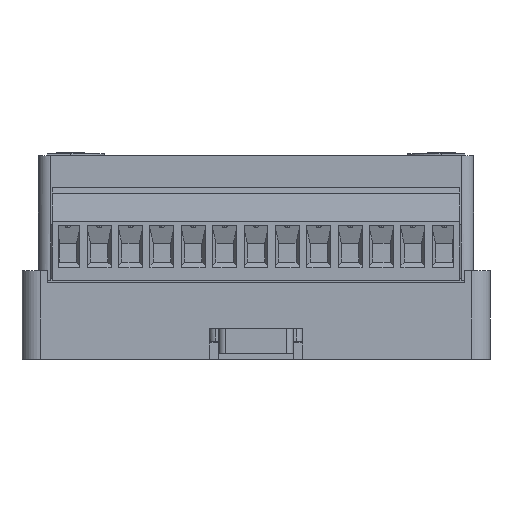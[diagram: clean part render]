
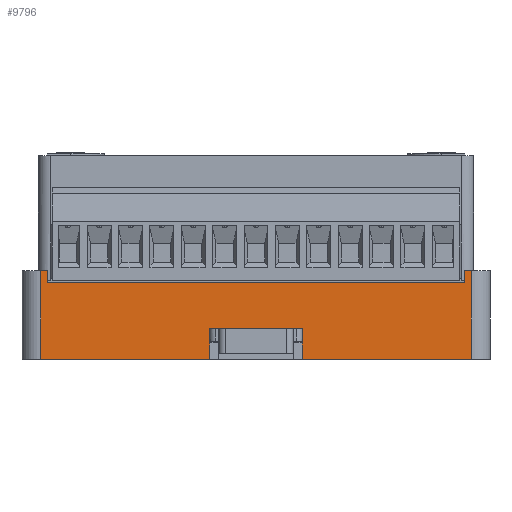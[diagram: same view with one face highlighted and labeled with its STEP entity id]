
A CAD part, front view. The second image highlights one B-rep face of the part: STEP entity #9796.
In plain terms, the highlighted planar face has unit normal (0, -1, 0).
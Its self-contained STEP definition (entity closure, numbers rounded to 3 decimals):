
#9796=ADVANCED_FACE('',(#46268),#46270,.F.);
#46268=FACE_BOUND('',#46269,.T.);
#46269=EDGE_LOOP('',(#74812,#74813,#74814,#74815,#74816,#74817,#74818,#74819,#74820,
#74821,#74822,#74823,#74824,#74825,#74826,#74827));
#46270=PLANE('',#46271);
#46271=AXIS2_PLACEMENT_3D('',#46272,#46273,#46274);
#46272=CARTESIAN_POINT('',(-37.9,-51.95,14.4));
#46273=DIRECTION('',(0.,1.,0.));
#46274=DIRECTION('',(0.,0.,1.));
#74812=ORIENTED_EDGE('',*,*,#103521,.F.);
#74813=ORIENTED_EDGE('',*,*,#103522,.F.);
#74814=ORIENTED_EDGE('',*,*,#103523,.T.);
#74815=ORIENTED_EDGE('',*,*,#103524,.T.);
#74816=ORIENTED_EDGE('',*,*,#103525,.T.);
#74817=ORIENTED_EDGE('',*,*,#103021,.F.);
#74818=ORIENTED_EDGE('',*,*,#103053,.T.);
#74819=ORIENTED_EDGE('',*,*,#103051,.F.);
#74820=ORIENTED_EDGE('',*,*,#103050,.T.);
#74821=ORIENTED_EDGE('',*,*,#103037,.F.);
#74822=ORIENTED_EDGE('',*,*,#103526,.T.);
#74823=ORIENTED_EDGE('',*,*,#103527,.T.);
#74824=ORIENTED_EDGE('',*,*,#103528,.F.);
#74825=ORIENTED_EDGE('',*,*,#103529,.F.);
#74826=ORIENTED_EDGE('',*,*,#103530,.F.);
#74827=ORIENTED_EDGE('',*,*,#103057,.F.);
#103021=EDGE_CURVE('',#117065,#117067,#117068,.T.);
#103037=EDGE_CURVE('',#117094,#117086,#117096,.T.);
#103050=EDGE_CURVE('',#117114,#117086,#117116,.T.);
#103051=EDGE_CURVE('',#117114,#117117,#117118,.T.);
#103053=EDGE_CURVE('',#117065,#117117,#117120,.T.);
#103057=EDGE_CURVE('',#117124,#117126,#117127,.T.);
#103521=EDGE_CURVE('',#117892,#117124,#117893,.T.);
#103522=EDGE_CURVE('',#117894,#117892,#117895,.T.);
#103523=EDGE_CURVE('',#117894,#117896,#117897,.T.);
#103524=EDGE_CURVE('',#117896,#117898,#117899,.T.);
#103525=EDGE_CURVE('',#117898,#117067,#117900,.T.);
#103526=EDGE_CURVE('',#117094,#117901,#117902,.T.);
#103527=EDGE_CURVE('',#117901,#117903,#117904,.T.);
#103528=EDGE_CURVE('',#117905,#117903,#117906,.T.);
#103529=EDGE_CURVE('',#117907,#117905,#117908,.T.);
#103530=EDGE_CURVE('',#117126,#117907,#117909,.T.);
#117065=VERTEX_POINT('',#148209);
#117067=VERTEX_POINT('',#148213);
#117068=LINE('',#148214,#148215);
#117086=VERTEX_POINT('',#148256);
#117094=VERTEX_POINT('',#148273);
#117096=LINE('',#148278,#148279);
#117114=VERTEX_POINT('',#148320);
#117116=LINE('',#148324,#148325);
#117117=VERTEX_POINT('',#148327);
#117118=LINE('',#148328,#148329);
#117120=LINE('',#148334,#148335);
#117124=VERTEX_POINT('',#148344);
#117126=VERTEX_POINT('',#148348);
#117127=LINE('',#148349,#148350);
#117892=VERTEX_POINT('',#150356);
#117893=LINE('',#150357,#150358);
#117894=VERTEX_POINT('',#150360);
#117895=LINE('',#150361,#150362);
#117896=VERTEX_POINT('',#150364);
#117897=LINE('',#150365,#150366);
#117898=VERTEX_POINT('',#150368);
#117899=LINE('',#150369,#150370);
#117900=LINE('',#150372,#150373);
#117901=VERTEX_POINT('',#150375);
#117902=LINE('',#150376,#150377);
#117903=VERTEX_POINT('',#150379);
#117904=LINE('',#150380,#150381);
#117905=VERTEX_POINT('',#150383);
#117906=LINE('',#150384,#150385);
#117907=VERTEX_POINT('',#150387);
#117908=LINE('',#150388,#150389);
#117909=LINE('',#150391,#150392);
#148209=CARTESIAN_POINT('',(33.85,-51.95,14.4));
#148213=CARTESIAN_POINT('',(34.9,-51.95,14.4));
#148214=CARTESIAN_POINT('',(33.85,-51.95,14.4));
#148215=VECTOR('',#148216,1.);
#148216=DIRECTION('',(1.,0.,0.));
#148256=CARTESIAN_POINT('',(-33.85,-51.95,14.4));
#148273=CARTESIAN_POINT('',(-34.9,-51.95,14.4));
#148278=CARTESIAN_POINT('',(-34.9,-51.95,14.4));
#148279=VECTOR('',#148280,1.);
#148280=DIRECTION('',(1.,0.,0.));
#148320=CARTESIAN_POINT('',(-33.85,-51.95,12.4));
#148324=CARTESIAN_POINT('',(-33.85,-51.95,12.4));
#148325=VECTOR('',#148326,1.);
#148326=DIRECTION('',(0.,0.,1.));
#148327=CARTESIAN_POINT('',(33.85,-51.95,12.4));
#148328=CARTESIAN_POINT('',(-33.85,-51.95,12.4));
#148329=VECTOR('',#148330,1.);
#148330=DIRECTION('',(1.,0.,0.));
#148334=CARTESIAN_POINT('',(33.85,-51.95,14.4));
#148335=VECTOR('',#148336,1.);
#148336=DIRECTION('',(0.,0.,-1.));
#148344=CARTESIAN_POINT('',(4.,-51.95,5.));
#148348=CARTESIAN_POINT('',(-4.,-51.95,5.));
#148349=CARTESIAN_POINT('',(4.,-51.95,5.));
#148350=VECTOR('',#148351,1.);
#148351=DIRECTION('',(-1.,0.,0.));
#150356=CARTESIAN_POINT('',(6.936,-51.95,5.));
#150357=CARTESIAN_POINT('',(6.936,-51.95,5.));
#150358=VECTOR('',#150359,1.);
#150359=DIRECTION('',(-1.,0.,0.));
#150360=CARTESIAN_POINT('',(7.5,-51.95,5.));
#150361=CARTESIAN_POINT('',(7.5,-51.95,5.));
#150362=VECTOR('',#150363,1.);
#150363=DIRECTION('',(-1.,0.,0.));
#150364=CARTESIAN_POINT('',(7.5,-51.95,0.));
#150365=CARTESIAN_POINT('',(7.5,-51.95,5.));
#150366=VECTOR('',#150367,1.);
#150367=DIRECTION('',(0.,0.,-1.));
#150368=CARTESIAN_POINT('',(34.9,-51.95,0.));
#150369=CARTESIAN_POINT('',(7.5,-51.95,0.));
#150370=VECTOR('',#150371,1.);
#150371=DIRECTION('',(1.,0.,0.));
#150372=CARTESIAN_POINT('',(34.9,-51.95,0.));
#150373=VECTOR('',#150374,1.);
#150374=DIRECTION('',(0.,0.,1.));
#150375=CARTESIAN_POINT('',(-34.9,-51.95,0.));
#150376=CARTESIAN_POINT('',(-34.9,-51.95,14.4));
#150377=VECTOR('',#150378,1.);
#150378=DIRECTION('',(0.,0.,-1.));
#150379=CARTESIAN_POINT('',(-7.5,-51.95,0.));
#150380=CARTESIAN_POINT('',(-34.9,-51.95,0.));
#150381=VECTOR('',#150382,1.);
#150382=DIRECTION('',(1.,0.,0.));
#150383=CARTESIAN_POINT('',(-7.5,-51.95,5.));
#150384=CARTESIAN_POINT('',(-7.5,-51.95,5.));
#150385=VECTOR('',#150386,1.);
#150386=DIRECTION('',(0.,0.,-1.));
#150387=CARTESIAN_POINT('',(-6.936,-51.95,5.));
#150388=CARTESIAN_POINT('',(-6.936,-51.95,5.));
#150389=VECTOR('',#150390,1.);
#150390=DIRECTION('',(-1.,0.,0.));
#150391=CARTESIAN_POINT('',(-4.,-51.95,5.));
#150392=VECTOR('',#150393,1.);
#150393=DIRECTION('',(-1.,0.,0.));
